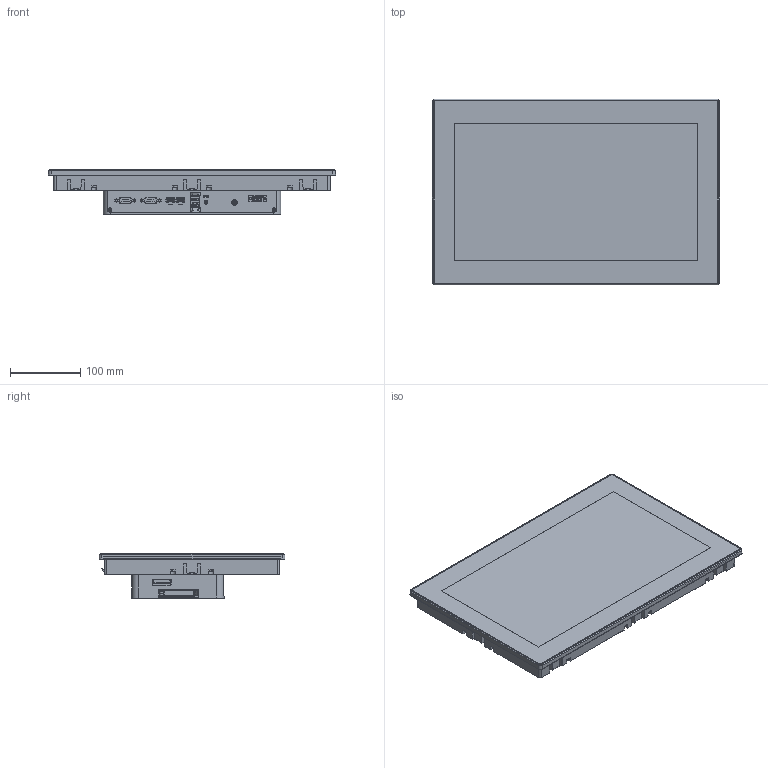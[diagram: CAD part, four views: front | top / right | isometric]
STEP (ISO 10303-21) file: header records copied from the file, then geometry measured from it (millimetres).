
FILE_DESCRIPTION(/* description */ (''),/* implementation_level */ '2;1');
FILE_NAME(/* name */ 'HMI_15W_WXGA_DC_3D-simpl.stp',/* time_stamp */ '2025-10-20T12:42:43+02:00',/* author */ (''),/* organization */ (''),/* preprocessor_version */ 'ST-DEVELOPER v16.7',/* originating_system */ 'SIEMENS PLM Software NX 12.0',/* authorisation */ '');
FILE_SCHEMA (('AP203_CONFIGURATION_CONTROLLED_3D_DESIGN_OF_MECHANICAL_PARTS_AND_ASSEMBLIES_MIM_LF { 1 0 10303 403 2 1 2}'));
Products named in the file (1): HMI_15W_WXGA_DC_3D-simpl_step
Bounding box: 408 x 264 x 64.28 mm (x, y, z)
Volume: 4020272.2 mm3; surface area: 319564.6 mm2
Topology: 3 solids, 21 shells, 2742 faces, 7410 edges, 4757 vertices
Faces by surface type: plane 1573, cylinder 725, cone 243, bspline 126, torus 42, sphere 33
Full cylindrical faces by diameter (mm): 0.99 x18, 2.5 x2, 2.8 x2, 2.845 x4, 4 x8, 5.6 x23, 6 x6, 8 x1, 8.454 x6
Entity records: 100197 total; most frequent: CARTESIAN_POINT 34772, ORIENTED_EDGE 14282, DIRECTION 12136, EDGE_CURVE 7141, VERTEX_POINT 4689, LINE 4582, VECTOR 4582, AXIS2_PLACEMENT_3D 3777
